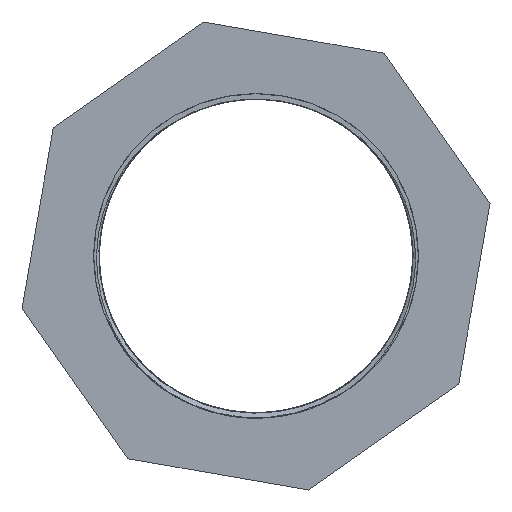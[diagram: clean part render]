
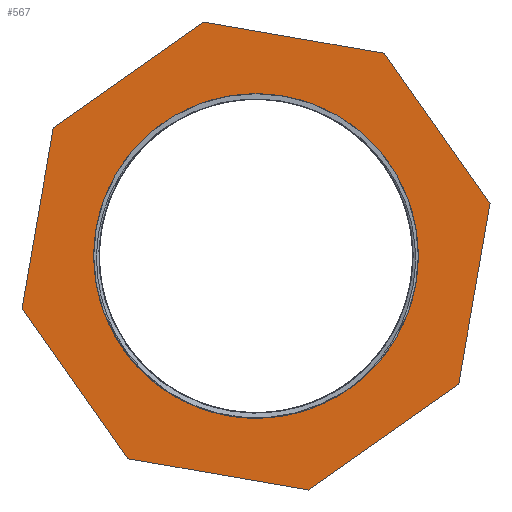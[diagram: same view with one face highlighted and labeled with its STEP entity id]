
A CAD part, left-side view. The second image highlights one B-rep face of the part: STEP entity #567.
In plain terms, the highlighted planar face has unit normal (-1, 0, 0).
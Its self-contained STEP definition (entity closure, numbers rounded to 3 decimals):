
#71=LINE('',#764,#95);
#75=LINE('',#771,#99);
#78=LINE('',#777,#102);
#81=LINE('',#783,#105);
#84=LINE('',#789,#108);
#87=LINE('',#795,#111);
#90=LINE('',#801,#114);
#92=LINE('',#804,#116);
#95=VECTOR('',#658,10.);
#99=VECTOR('',#664,10.);
#102=VECTOR('',#669,10.);
#105=VECTOR('',#674,10.);
#108=VECTOR('',#679,10.);
#111=VECTOR('',#684,10.);
#114=VECTOR('',#689,10.);
#116=VECTOR('',#693,10.);
#132=FACE_BOUND('',#200,.T.);
#155=FACE_OUTER_BOUND('',#199,.T.);
#199=EDGE_LOOP('',(#432,#433,#434,#435,#436,#437,#438,#439));
#200=EDGE_LOOP('',(#440));
#236=CIRCLE('',#616,43.94);
#252=VERTEX_POINT('',#761);
#253=VERTEX_POINT('',#763);
#255=VERTEX_POINT('',#769);
#257=VERTEX_POINT('',#775);
#259=VERTEX_POINT('',#781);
#261=VERTEX_POINT('',#787);
#263=VERTEX_POINT('',#793);
#265=VERTEX_POINT('',#799);
#268=VERTEX_POINT('',#813);
#308=EDGE_CURVE('',#252,#253,#71,.T.);
#312=EDGE_CURVE('',#255,#252,#75,.T.);
#315=EDGE_CURVE('',#257,#255,#78,.T.);
#318=EDGE_CURVE('',#259,#257,#81,.T.);
#321=EDGE_CURVE('',#261,#259,#84,.T.);
#324=EDGE_CURVE('',#263,#261,#87,.T.);
#327=EDGE_CURVE('',#265,#263,#90,.T.);
#329=EDGE_CURVE('',#253,#265,#92,.T.);
#332=EDGE_CURVE('',#268,#268,#236,.T.);
#432=ORIENTED_EDGE('',*,*,#318,.F.);
#433=ORIENTED_EDGE('',*,*,#321,.F.);
#434=ORIENTED_EDGE('',*,*,#324,.F.);
#435=ORIENTED_EDGE('',*,*,#327,.F.);
#436=ORIENTED_EDGE('',*,*,#329,.F.);
#437=ORIENTED_EDGE('',*,*,#308,.F.);
#438=ORIENTED_EDGE('',*,*,#312,.F.);
#439=ORIENTED_EDGE('',*,*,#315,.F.);
#440=ORIENTED_EDGE('',*,*,#332,.F.);
#547=PLANE('',#615);
#567=ADVANCED_FACE('',(#155,#132),#547,.T.);
#615=AXIS2_PLACEMENT_3D('',#812,#704,#705);
#616=AXIS2_PLACEMENT_3D('',#814,#706,#707);
#658=DIRECTION('',(0.,-0.985,-0.171));
#664=DIRECTION('',(0.,-0.817,0.576));
#669=DIRECTION('',(0.,-0.171,0.985));
#674=DIRECTION('',(0.,0.576,0.817));
#679=DIRECTION('',(0.,0.985,0.171));
#684=DIRECTION('',(0.,0.817,-0.576));
#689=DIRECTION('',(0.,0.171,-0.985));
#693=DIRECTION('',(0.,-0.576,-0.817));
#704=DIRECTION('center_axis',(-1.,0.,0.));
#705=DIRECTION('ref_axis',(0.,0.,1.));
#706=DIRECTION('center_axis',(-1.,0.,0.));
#707=DIRECTION('ref_axis',(0.,0.,1.));
#761=CARTESIAN_POINT('',(0.,14.249,63.361));
#763=CARTESIAN_POINT('',(0.,-34.728,54.878));
#764=CARTESIAN_POINT('',(0.,14.249,63.361));
#769=CARTESIAN_POINT('',(0.,54.878,34.728));
#771=CARTESIAN_POINT('',(0.,54.878,34.728));
#775=CARTESIAN_POINT('',(0.,63.361,-14.249));
#777=CARTESIAN_POINT('',(0.,63.361,-14.249));
#781=CARTESIAN_POINT('',(0.,34.728,-54.878));
#783=CARTESIAN_POINT('',(0.,34.728,-54.878));
#787=CARTESIAN_POINT('',(0.,-14.249,-63.361));
#789=CARTESIAN_POINT('',(0.,-14.249,-63.361));
#793=CARTESIAN_POINT('',(0.,-54.878,-34.728));
#795=CARTESIAN_POINT('',(0.,-54.878,-34.728));
#799=CARTESIAN_POINT('',(0.,-63.361,14.249));
#801=CARTESIAN_POINT('',(0.,-63.361,14.249));
#804=CARTESIAN_POINT('',(0.,-34.728,54.878));
#812=CARTESIAN_POINT('Origin',(0.,-43.94,0.));
#813=CARTESIAN_POINT('',(0.,-43.94,0.));
#814=CARTESIAN_POINT('Origin',(0.,0.,0.));
